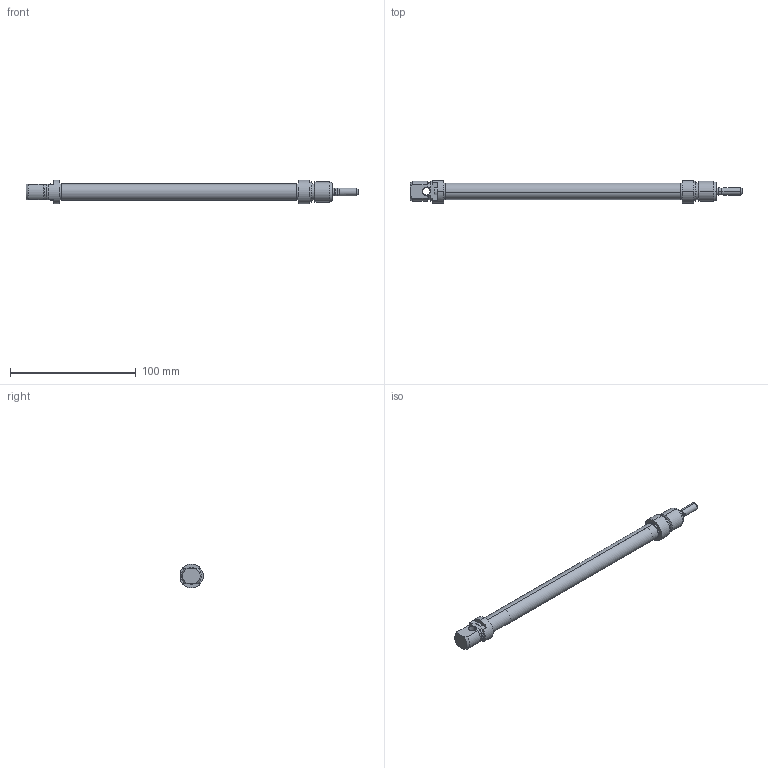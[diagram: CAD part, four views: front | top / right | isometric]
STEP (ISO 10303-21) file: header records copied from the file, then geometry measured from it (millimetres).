
FILE_DESCRIPTION (( 'STEP AP203' ), '1' );
FILE_NAME ('MF0120160A.step', '2012-10-17T16:32:33', ( '' ), ( '' ), 'SwSTEP 2.0', 'SolidWorks 2012', '' );
FILE_SCHEMA (( 'CONFIG_CONTROL_DESIGN' ));
Length unit declared in the file: millimetre
Products named in the file (1): MF0120160A
Bounding box: 264.5 x 18 x 19 mm (x, y, z)
Volume: 23995.3 mm3; surface area: 21514.9 mm2
Topology: 1 solids, 2 shells, 115 faces, 267 edges, 170 vertices
Faces by surface type: cylinder 47, plane 36, cone 28, torus 4
Entity records: 3518 total; most frequent: CARTESIAN_POINT 727, DIRECTION 613, ORIENTED_EDGE 534, EDGE_CURVE 267, AXIS2_PLACEMENT_3D 248, VERTEX_POINT 170, EDGE_LOOP 133, CIRCLE 132
